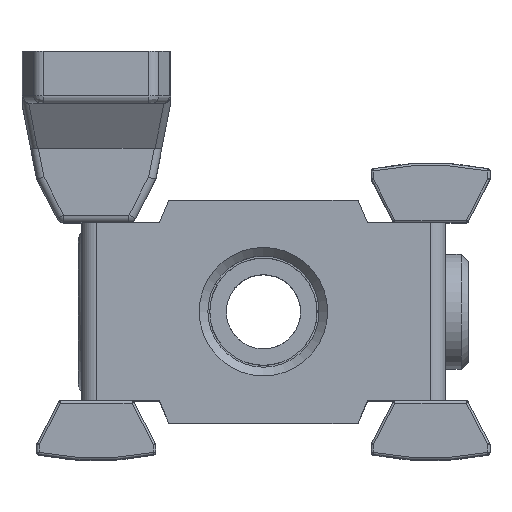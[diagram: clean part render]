
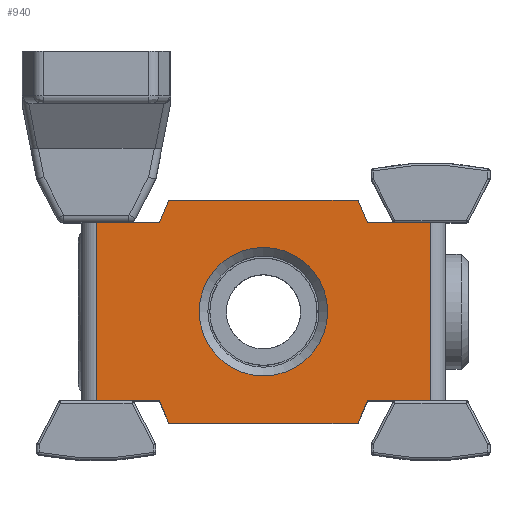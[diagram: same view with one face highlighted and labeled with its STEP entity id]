
A CAD part, top view. The second image highlights one B-rep face of the part: STEP entity #940.
In plain terms, the highlighted planar face has unit normal (0, 0, 1).
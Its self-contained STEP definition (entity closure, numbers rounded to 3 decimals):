
#940 = ADVANCED_FACE( '', ( #2500, #2501 ), #2502, .T. );
#2500 = FACE_OUTER_BOUND( '', #4842, .T. );
#2501 = FACE_BOUND( '', #4843, .T. );
#2502 = PLANE( '', #4844 );
#4842 = EDGE_LOOP( '', ( #8186, #8187, #8188, #8189, #8190, #8191, #8192, #8193, #8194, #8195, #8196, #8197 ) );
#4843 = EDGE_LOOP( '', ( #8198 ) );
#4844 = AXIS2_PLACEMENT_3D( '', #8199, #8200, #8201 );
#8186 = ORIENTED_EDGE( '', *, *, #13997, .T. );
#8187 = ORIENTED_EDGE( '', *, *, #13998, .T. );
#8188 = ORIENTED_EDGE( '', *, *, #13999, .T. );
#8189 = ORIENTED_EDGE( '', *, *, #14000, .T. );
#8190 = ORIENTED_EDGE( '', *, *, #14001, .T. );
#8191 = ORIENTED_EDGE( '', *, *, #14002, .T. );
#8192 = ORIENTED_EDGE( '', *, *, #14003, .T. );
#8193 = ORIENTED_EDGE( '', *, *, #14004, .T. );
#8194 = ORIENTED_EDGE( '', *, *, #14005, .T. );
#8195 = ORIENTED_EDGE( '', *, *, #14006, .T. );
#8196 = ORIENTED_EDGE( '', *, *, #14007, .T. );
#8197 = ORIENTED_EDGE( '', *, *, #14008, .T. );
#8198 = ORIENTED_EDGE( '', *, *, #14009, .T. );
#8199 = CARTESIAN_POINT( '', ( 0., 0., 20. ) );
#8200 = DIRECTION( '', ( 0., 0., 1. ) );
#8201 = DIRECTION( '', ( 1., 0., 0. ) );
#13997 = EDGE_CURVE( '', #16766, #16767, #16768, .T. );
#13998 = EDGE_CURVE( '', #16767, #16769, #16770, .T. );
#13999 = EDGE_CURVE( '', #16769, #16771, #16772, .T. );
#14000 = EDGE_CURVE( '', #16771, #16773, #16774, .T. );
#14001 = EDGE_CURVE( '', #16773, #16775, #16776, .T. );
#14002 = EDGE_CURVE( '', #16775, #16777, #16778, .T. );
#14003 = EDGE_CURVE( '', #16777, #16779, #16780, .T. );
#14004 = EDGE_CURVE( '', #16779, #16781, #16782, .T. );
#14005 = EDGE_CURVE( '', #16781, #16783, #16784, .T. );
#14006 = EDGE_CURVE( '', #16783, #16785, #16786, .T. );
#14007 = EDGE_CURVE( '', #16785, #16787, #16788, .T. );
#14008 = EDGE_CURVE( '', #16787, #16766, #16789, .T. );
#14009 = EDGE_CURVE( '', #16790, #16790, #16791, .T. );
#16766 = VERTEX_POINT( '', #20647 );
#16767 = VERTEX_POINT( '', #20648 );
#16768 = LINE( '', #20649, #20650 );
#16769 = VERTEX_POINT( '', #20651 );
#16770 = LINE( '', #20652, #20653 );
#16771 = VERTEX_POINT( '', #20654 );
#16772 = LINE( '', #20655, #20656 );
#16773 = VERTEX_POINT( '', #20657 );
#16774 = LINE( '', #20658, #20659 );
#16775 = VERTEX_POINT( '', #20660 );
#16776 = LINE( '', #20661, #20662 );
#16777 = VERTEX_POINT( '', #20663 );
#16778 = LINE( '', #20664, #20665 );
#16779 = VERTEX_POINT( '', #20666 );
#16780 = LINE( '', #20667, #20668 );
#16781 = VERTEX_POINT( '', #20669 );
#16782 = LINE( '', #20670, #20671 );
#16783 = VERTEX_POINT( '', #20672 );
#16784 = LINE( '', #20673, #20674 );
#16785 = VERTEX_POINT( '', #20675 );
#16786 = LINE( '', #20676, #20677 );
#16787 = VERTEX_POINT( '', #20678 );
#16788 = LINE( '', #20679, #20680 );
#16789 = LINE( '', #20681, #20682 );
#16790 = VERTEX_POINT( '', #20683 );
#16791 = CIRCLE( '', #20684, 8.65 );
#20647 = CARTESIAN_POINT( '', ( -22.5, -12., 20. ) );
#20648 = CARTESIAN_POINT( '', ( -14., -12., 20. ) );
#20649 = CARTESIAN_POINT( '', ( 0., -12., 20. ) );
#20650 = VECTOR( '', #25405, 1000. );
#20651 = CARTESIAN_POINT( '', ( -12.734, -15., 20. ) );
#20652 = CARTESIAN_POINT( '', ( -14., -12., 20. ) );
#20653 = VECTOR( '', #25406, 1000. );
#20654 = CARTESIAN_POINT( '', ( 12.734, -15., 20. ) );
#20655 = CARTESIAN_POINT( '', ( 0., -15., 20. ) );
#20656 = VECTOR( '', #25407, 1000. );
#20657 = CARTESIAN_POINT( '', ( 14., -12., 20. ) );
#20658 = CARTESIAN_POINT( '', ( 12.734, -15., 20. ) );
#20659 = VECTOR( '', #25408, 1000. );
#20660 = CARTESIAN_POINT( '', ( 22.5, -12., 20. ) );
#20661 = CARTESIAN_POINT( '', ( 0., -12., 20. ) );
#20662 = VECTOR( '', #25409, 1000. );
#20663 = CARTESIAN_POINT( '', ( 22.5, 12., 20. ) );
#20664 = CARTESIAN_POINT( '', ( 22.5, 0., 20. ) );
#20665 = VECTOR( '', #25410, 1000. );
#20666 = CARTESIAN_POINT( '', ( 14., 12., 20. ) );
#20667 = CARTESIAN_POINT( '', ( 0., 12., 20. ) );
#20668 = VECTOR( '', #25411, 1000. );
#20669 = CARTESIAN_POINT( '', ( 12.734, 15., 20. ) );
#20670 = CARTESIAN_POINT( '', ( 14., 12., 20. ) );
#20671 = VECTOR( '', #25412, 1000. );
#20672 = CARTESIAN_POINT( '', ( -12.734, 15., 20. ) );
#20673 = CARTESIAN_POINT( '', ( 0., 15., 20. ) );
#20674 = VECTOR( '', #25413, 1000. );
#20675 = CARTESIAN_POINT( '', ( -14., 12., 20. ) );
#20676 = CARTESIAN_POINT( '', ( -12.734, 15., 20. ) );
#20677 = VECTOR( '', #25414, 1000. );
#20678 = CARTESIAN_POINT( '', ( -22.5, 12., 20. ) );
#20679 = CARTESIAN_POINT( '', ( 0., 12., 20. ) );
#20680 = VECTOR( '', #25415, 1000. );
#20681 = CARTESIAN_POINT( '', ( -22.5, 0., 20. ) );
#20682 = VECTOR( '', #25416, 1000. );
#20683 = CARTESIAN_POINT( '', ( 8.65, 0., 20. ) );
#20684 = AXIS2_PLACEMENT_3D( '', #25417, #25418, #25419 );
#25405 = DIRECTION( '', ( 1., 0., 0. ) );
#25406 = DIRECTION( '', ( 0.389, -0.921, 0. ) );
#25407 = DIRECTION( '', ( 1., 0., 0. ) );
#25408 = DIRECTION( '', ( 0.389, 0.921, 0. ) );
#25409 = DIRECTION( '', ( 1., 0., 0. ) );
#25410 = DIRECTION( '', ( 0., 1., 0. ) );
#25411 = DIRECTION( '', ( -1., 0., 0. ) );
#25412 = DIRECTION( '', ( -0.389, 0.921, 0. ) );
#25413 = DIRECTION( '', ( -1., 0., 0. ) );
#25414 = DIRECTION( '', ( -0.389, -0.921, 0. ) );
#25415 = DIRECTION( '', ( -1., 0., 0. ) );
#25416 = DIRECTION( '', ( 0., -1., 0. ) );
#25417 = CARTESIAN_POINT( '', ( 0., 0., 20. ) );
#25418 = DIRECTION( '', ( 0., 0., -1. ) );
#25419 = DIRECTION( '', ( 1., 0., 0. ) );
